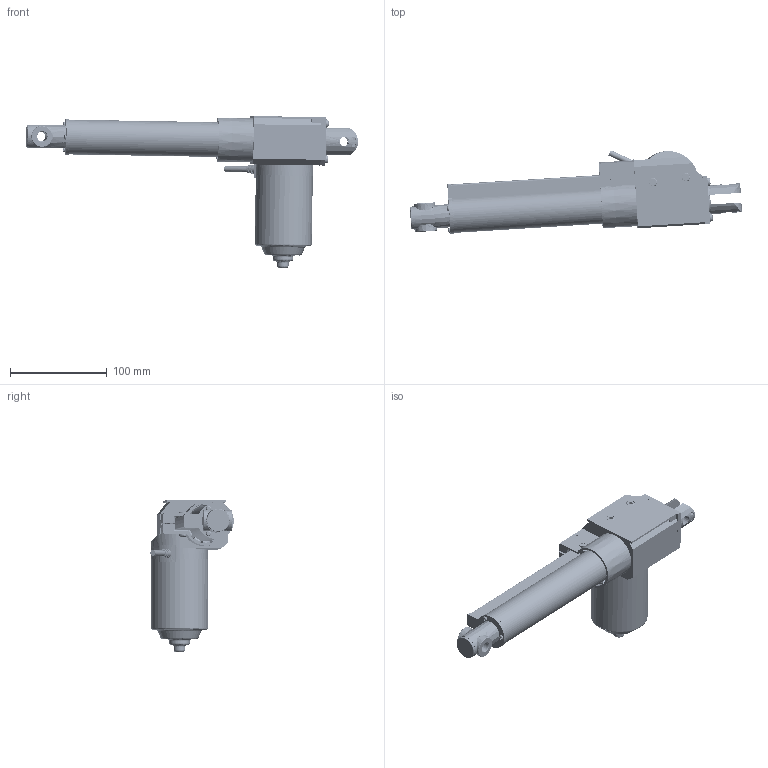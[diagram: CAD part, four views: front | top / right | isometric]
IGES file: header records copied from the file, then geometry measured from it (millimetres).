
Start section: SolidWorks IGES file using analytic representation for surfaces
Global section: file name: C:\Users\USER\Desktop\2324\MK60-2.IGS; native system: SolidWorks 2023; preprocessor: SolidWorks 2023; author: USER; date: 251204.133010; units: millimetre
Bounding box: 343.55 x 86.6 x 157.37 mm (x, y, z)
Surface area: 243161.4 mm2 (no closed solid volume)
Topology: 0 solids, 0 shells, 2449 faces, 29417 edges, 29405 vertices
Faces by surface type: revolution 1230, bspline 1219
